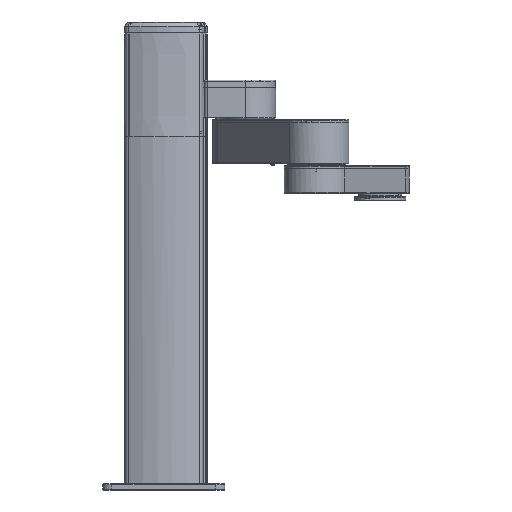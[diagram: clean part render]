
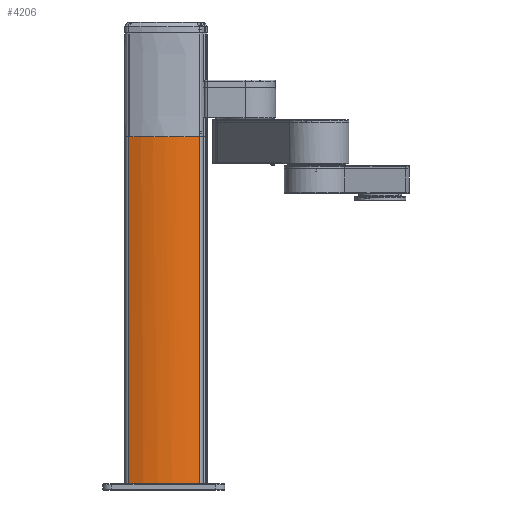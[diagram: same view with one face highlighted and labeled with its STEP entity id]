
A CAD part, front view. The second image highlights one B-rep face of the part: STEP entity #4206.
In plain terms, the highlighted cylindrical face has radius 140 mm (diameter 280 mm), a partial arc.
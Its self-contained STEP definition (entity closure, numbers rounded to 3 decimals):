
#1771=CARTESIAN_POINT('Vertex',(0.,61.837,57.077)) ;
#1807=CARTESIAN_POINT('Control Point',(0.,63.,54.397)) ;
#1808=CARTESIAN_POINT('Control Point',(0.,62.773,54.935)) ;
#1809=CARTESIAN_POINT('Control Point',(0.,62.543,55.472)) ;
#1810=CARTESIAN_POINT('Control Point',(0.,62.31,56.008)) ;
#1811=CARTESIAN_POINT('Control Point',(0.,62.075,56.543)) ;
#1812=CARTESIAN_POINT('Control Point',(0.,61.837,57.077)) ;
#1813=CARTESIAN_POINT('Vertex',(0.,63.,54.397)) ;
#1849=CARTESIAN_POINT('Control Point',(0.,60.853,-59.231)) ;
#1850=CARTESIAN_POINT('Control Point',(0.,70.755,-38.024)) ;
#1851=CARTESIAN_POINT('Control Point',(0.,76.227,-14.747)) ;
#1852=CARTESIAN_POINT('Control Point',(0.,76.683,9.364)) ;
#1853=CARTESIAN_POINT('Control Point',(0.,72.094,32.831)) ;
#1854=CARTESIAN_POINT('Control Point',(0.,63.,54.397)) ;
#1855=CARTESIAN_POINT('Vertex',(0.,60.853,-59.231)) ;
#4013=CARTESIAN_POINT('Vertex',(568.,61.837,57.077)) ;
#4016=CARTESIAN_POINT('Line Origine',(284.,61.837,57.077)) ;
#4159=CARTESIAN_POINT('Vertex',(568.,60.853,-59.231)) ;
#4169=CARTESIAN_POINT('Line Origine',(284.,60.853,-59.231)) ;
#4181=CARTESIAN_POINT('Axis2P3D Location',(284.66,-66.,0.)) ;
#4186=CARTESIAN_POINT('Axis2P3D Location',(568.,-66.,0.)) ;
#4190=CARTESIAN_POINT('Vertex',(568.,63.,54.397)) ;
#4193=CARTESIAN_POINT('Axis2P3D Location',(568.,-66.,0.)) ;
#4017=DIRECTION('Vector Direction',(-1.,0.,0.)) ;
#4170=DIRECTION('Vector Direction',(1.,0.,0.)) ;
#4182=DIRECTION('Axis2P3D Direction',(-1.,0.,0.)) ;
#4183=DIRECTION('Axis2P3D XDirection',(0.,0.736,0.677)) ;
#4187=DIRECTION('Axis2P3D Direction',(-1.,0.,0.)) ;
#4194=DIRECTION('Axis2P3D Direction',(-1.,0.,0.)) ;
#4184=AXIS2_PLACEMENT_3D('Cylinder Axis2P3D',#4181,#4182,#4183) ;
#4188=AXIS2_PLACEMENT_3D('Circle Axis2P3D',#4186,#4187,$) ;
#4195=AXIS2_PLACEMENT_3D('Circle Axis2P3D',#4193,#4194,$) ;
#4199=ORIENTED_EDGE('',*,*,#4192,.F.) ;
#4200=ORIENTED_EDGE('',*,*,#4197,.F.) ;
#4201=ORIENTED_EDGE('',*,*,#4173,.F.) ;
#4202=ORIENTED_EDGE('',*,*,#1857,.T.) ;
#4203=ORIENTED_EDGE('',*,*,#1815,.T.) ;
#4204=ORIENTED_EDGE('',*,*,#4020,.T.) ;
#4018=VECTOR('Line Direction',#4017,1.) ;
#4171=VECTOR('Line Direction',#4170,1.) ;
#4206=ADVANCED_FACE('\X2\96F64EF651E04F554F53\X0\',(#4205),#4185,.T.) ;
#1806=B_SPLINE_CURVE_WITH_KNOTS('',5,(#1807,#1808,#1809,#1810,#1811,#1812),.UNSPECIFIED.,.F.,.U.,(6,6),(155.923,158.845),.UNSPECIFIED.) ;
#1848=B_SPLINE_CURVE_WITH_KNOTS('',5,(#1849,#1850,#1851,#1852,#1853,#1854),.UNSPECIFIED.,.F.,.U.,(6,6),(38.898,155.923),.UNSPECIFIED.) ;
#4189=CIRCLE('generated circle',#4188,140.) ;
#4196=CIRCLE('generated circle',#4195,140.) ;
#4185=CYLINDRICAL_SURFACE('generated cylinder',#4184,140.) ;
#1815=EDGE_CURVE('',#1814,#1772,#1806,.T.) ;
#1857=EDGE_CURVE('',#1856,#1814,#1848,.T.) ;
#4020=EDGE_CURVE('',#1772,#4014,#4019,.F.) ;
#4173=EDGE_CURVE('',#1856,#4160,#4172,.T.) ;
#4192=EDGE_CURVE('',#4191,#4014,#4189,.F.) ;
#4197=EDGE_CURVE('',#4160,#4191,#4196,.F.) ;
#4198=EDGE_LOOP('',(#4199,#4200,#4201,#4202,#4203,#4204)) ;
#4205=FACE_OUTER_BOUND('',#4198,.T.) ;
#4019=LINE('Line',#4016,#4018) ;
#4172=LINE('Line',#4169,#4171) ;
#1772=VERTEX_POINT('',#1771) ;
#1814=VERTEX_POINT('',#1813) ;
#1856=VERTEX_POINT('',#1855) ;
#4014=VERTEX_POINT('',#4013) ;
#4160=VERTEX_POINT('',#4159) ;
#4191=VERTEX_POINT('',#4190) ;
